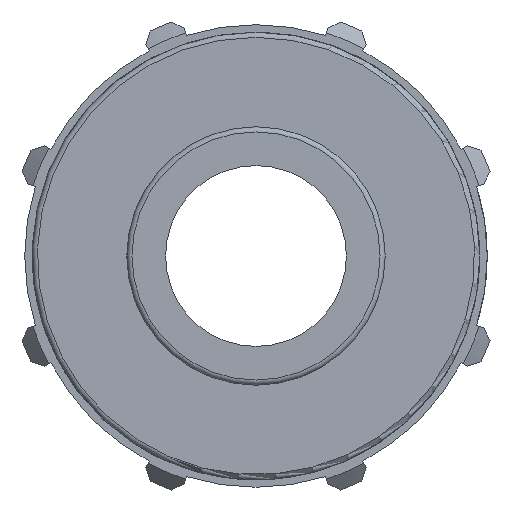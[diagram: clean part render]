
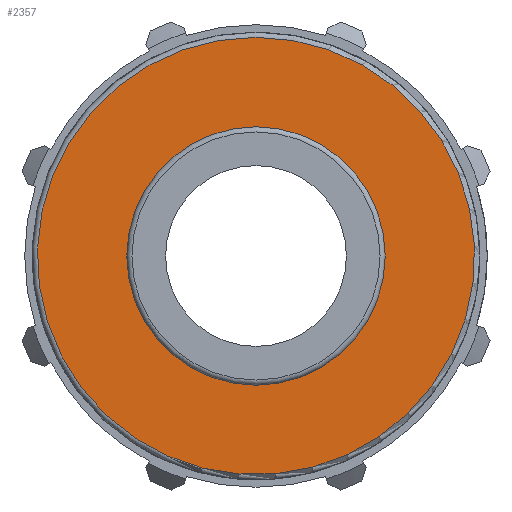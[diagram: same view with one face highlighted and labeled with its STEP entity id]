
A CAD part, left-side view. The second image highlights one B-rep face of the part: STEP entity #2357.
In plain terms, the highlighted planar face has unit normal (-1, 0, 0).
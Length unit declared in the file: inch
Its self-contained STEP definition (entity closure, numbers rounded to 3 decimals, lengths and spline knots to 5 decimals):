
#459=FACE_BOUND('',#683,.T.);
#472=PLANE('',#2549);
#551=FACE_OUTER_BOUND('',#682,.T.);
#682=EDGE_LOOP('',(#1626,#1627));
#683=EDGE_LOOP('',(#1628,#1629));
#797=CIRCLE('',#2489,0.65451);
#798=CIRCLE('',#2490,0.65451);
#835=CIRCLE('',#2547,1.10778);
#836=CIRCLE('',#2548,1.10778);
#920=VERTEX_POINT('',#3411);
#921=VERTEX_POINT('',#3412);
#987=VERTEX_POINT('',#3801);
#988=VERTEX_POINT('',#3803);
#1158=EDGE_CURVE('',#920,#921,#797,.T.);
#1159=EDGE_CURVE('',#921,#920,#798,.T.);
#1246=EDGE_CURVE('',#987,#988,#835,.T.);
#1247=EDGE_CURVE('',#988,#987,#836,.T.);
#1626=ORIENTED_EDGE('',*,*,#1247,.F.);
#1627=ORIENTED_EDGE('',*,*,#1246,.F.);
#1628=ORIENTED_EDGE('',*,*,#1158,.T.);
#1629=ORIENTED_EDGE('',*,*,#1159,.T.);
#2357=ADVANCED_FACE('',(#551,#459),#472,.T.);
#2489=AXIS2_PLACEMENT_3D('',#3413,#2750,#2751);
#2490=AXIS2_PLACEMENT_3D('',#3414,#2752,#2753);
#2547=AXIS2_PLACEMENT_3D('',#3804,#2892,#2893);
#2548=AXIS2_PLACEMENT_3D('',#3805,#2894,#2895);
#2549=AXIS2_PLACEMENT_3D('',#3806,#2896,#2897);
#2750=DIRECTION('center_axis',(1.,0.,0.));
#2751=DIRECTION('ref_axis',(0.,0.,-1.));
#2752=DIRECTION('center_axis',(1.,0.,0.));
#2753=DIRECTION('ref_axis',(0.,0.,-1.));
#2892=DIRECTION('center_axis',(1.,0.,0.));
#2893=DIRECTION('ref_axis',(0.,-0.552,0.834));
#2894=DIRECTION('center_axis',(1.,0.,0.));
#2895=DIRECTION('ref_axis',(0.,-0.552,0.834));
#2896=DIRECTION('center_axis',(-1.,0.,0.));
#2897=DIRECTION('ref_axis',(0.,0.,1.));
#3411=CARTESIAN_POINT('',(0.79,0.65451,0.));
#3412=CARTESIAN_POINT('',(0.79,-0.65451,0.));
#3413=CARTESIAN_POINT('Origin',(0.79,0.,0.));
#3414=CARTESIAN_POINT('Origin',(0.79,0.,0.));
#3801=CARTESIAN_POINT('',(0.79,0.,1.10778));
#3803=CARTESIAN_POINT('',(0.79,0.61118,-0.92392));
#3804=CARTESIAN_POINT('Origin',(0.79,0.,0.));
#3805=CARTESIAN_POINT('Origin',(0.79,0.,0.));
#3806=CARTESIAN_POINT('Origin',(0.79,1.134,0.));
